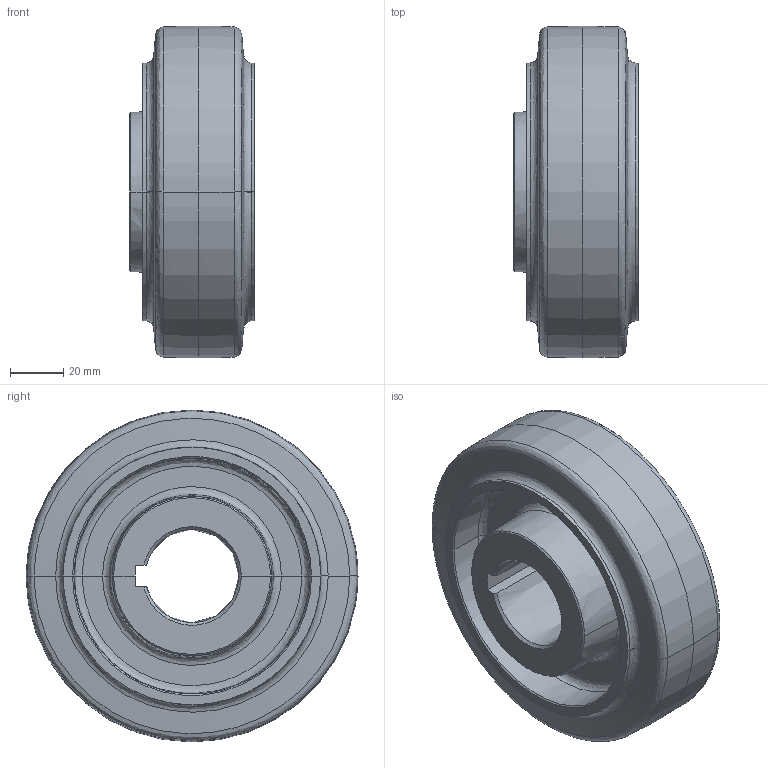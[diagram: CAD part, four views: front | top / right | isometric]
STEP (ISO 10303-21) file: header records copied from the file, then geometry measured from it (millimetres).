
FILE_DESCRIPTION (( 'STEP AP214' ), '1' );
FILE_NAME ('DWR-125D.STEP', '2022-11-29T02:28:14', ( 'sakai' ), ( 'Hewlett-Packard' ), 'SwSTEP 2.0', 'SolidWorks 2010', '' );
FILE_SCHEMA (( 'AUTOMOTIVE_DESIGN' ));
Length unit declared in the file: millimetre
Products named in the file (3): DWR-125D; Part3; Part1
Assembly tree (2 placements, depth 2):
  DWR-125D
    Part1
    Part3
Bounding box: 47 x 125 x 125 mm (x, y, z)
Volume: 321581.7 mm3; surface area: 79401.6 mm2
Topology: 2 solids, 2 shells, 67 faces, 141 edges, 74 vertices
Faces by surface type: bspline 52, plane 15
Entity records: 8529 total; most frequent: CARTESIAN_POINT 7355, ORIENTED_EDGE 282, EDGE_CURVE 141, DIRECTION 93, B_SPLINE_CURVE_WITH_KNOTS 88, VERTEX_POINT 74, FACE_OUTER_BOUND 67, EDGE_LOOP 67
